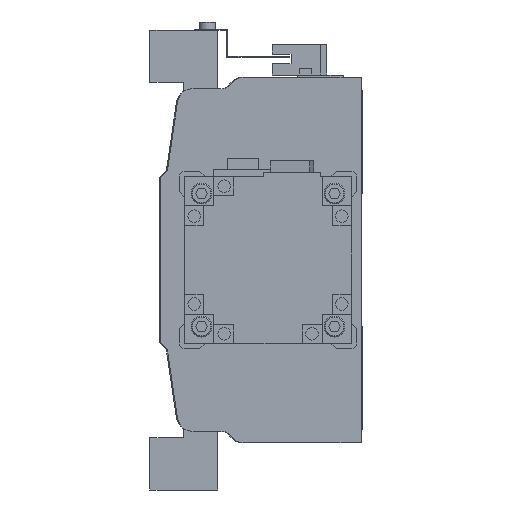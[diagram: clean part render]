
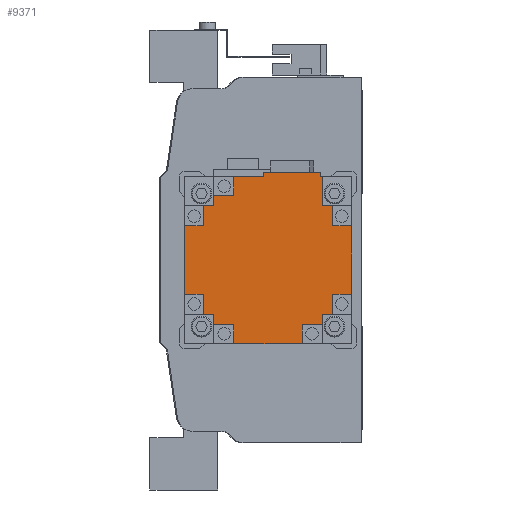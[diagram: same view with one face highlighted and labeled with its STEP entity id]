
A CAD part, left-side view. The second image highlights one B-rep face of the part: STEP entity #9371.
In plain terms, the highlighted planar face has unit normal (-1, 0, 0) as drawn and (0, 1, 0) by its records, which use the part's own axes.
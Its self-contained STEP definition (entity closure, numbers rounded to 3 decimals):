
#150=PLANE('',#10044);
#656=LINE('',#13878,#1707);
#665=LINE('',#13898,#1716);
#671=LINE('',#13910,#1722);
#674=LINE('',#13916,#1725);
#675=LINE('',#13919,#1726);
#676=LINE('',#13921,#1727);
#677=LINE('',#13923,#1728);
#678=LINE('',#13925,#1729);
#679=LINE('',#13927,#1730);
#680=LINE('',#13929,#1731);
#681=LINE('',#13931,#1732);
#682=LINE('',#13933,#1733);
#683=LINE('',#13935,#1734);
#684=LINE('',#13937,#1735);
#685=LINE('',#13939,#1736);
#686=LINE('',#13941,#1737);
#687=LINE('',#13943,#1738);
#688=LINE('',#13945,#1739);
#689=LINE('',#13947,#1740);
#690=LINE('',#13949,#1741);
#691=LINE('',#13951,#1742);
#692=LINE('',#13953,#1743);
#693=LINE('',#13955,#1744);
#694=LINE('',#13957,#1745);
#695=LINE('',#13958,#1746);
#696=LINE('',#13959,#1747);
#697=LINE('',#13960,#1748);
#698=LINE('',#13962,#1749);
#699=LINE('',#13964,#1750);
#700=LINE('',#13966,#1751);
#1707=VECTOR('',#11173,1000.);
#1716=VECTOR('',#11184,1000.);
#1722=VECTOR('',#11190,1000.);
#1725=VECTOR('',#11195,1000.);
#1726=VECTOR('',#11196,1000.);
#1727=VECTOR('',#11197,1000.);
#1728=VECTOR('',#11198,1000.);
#1729=VECTOR('',#11199,1000.);
#1730=VECTOR('',#11200,1000.);
#1731=VECTOR('',#11201,1000.);
#1732=VECTOR('',#11202,1000.);
#1733=VECTOR('',#11203,1000.);
#1734=VECTOR('',#11204,1000.);
#1735=VECTOR('',#11205,1000.);
#1736=VECTOR('',#11206,1000.);
#1737=VECTOR('',#11207,1000.);
#1738=VECTOR('',#11208,1000.);
#1739=VECTOR('',#11209,1000.);
#1740=VECTOR('',#11210,1000.);
#1741=VECTOR('',#11211,1000.);
#1742=VECTOR('',#11212,1000.);
#1743=VECTOR('',#11213,1000.);
#1744=VECTOR('',#11214,1000.);
#1745=VECTOR('',#11215,1000.);
#1746=VECTOR('',#11216,1000.);
#1747=VECTOR('',#11217,1000.);
#1748=VECTOR('',#11218,1000.);
#1749=VECTOR('',#11219,1000.);
#1750=VECTOR('',#11220,1000.);
#1751=VECTOR('',#11221,1000.);
#3045=ORIENTED_EDGE('',*,*,#5488,.T.);
#3046=ORIENTED_EDGE('',*,*,#5489,.T.);
#3047=ORIENTED_EDGE('',*,*,#5490,.T.);
#3048=ORIENTED_EDGE('',*,*,#5491,.T.);
#3049=ORIENTED_EDGE('',*,*,#5492,.T.);
#3050=ORIENTED_EDGE('',*,*,#5493,.F.);
#3051=ORIENTED_EDGE('',*,*,#5494,.F.);
#3052=ORIENTED_EDGE('',*,*,#5495,.T.);
#3053=ORIENTED_EDGE('',*,*,#5496,.T.);
#3054=ORIENTED_EDGE('',*,*,#5497,.T.);
#3055=ORIENTED_EDGE('',*,*,#5498,.T.);
#3056=ORIENTED_EDGE('',*,*,#5499,.T.);
#3057=ORIENTED_EDGE('',*,*,#5500,.F.);
#3058=ORIENTED_EDGE('',*,*,#5501,.F.);
#3059=ORIENTED_EDGE('',*,*,#5502,.T.);
#3060=ORIENTED_EDGE('',*,*,#5503,.T.);
#3061=ORIENTED_EDGE('',*,*,#5504,.T.);
#3062=ORIENTED_EDGE('',*,*,#5505,.T.);
#3063=ORIENTED_EDGE('',*,*,#5506,.T.);
#3064=ORIENTED_EDGE('',*,*,#5507,.F.);
#3065=ORIENTED_EDGE('',*,*,#5508,.F.);
#3066=ORIENTED_EDGE('',*,*,#5479,.T.);
#3067=ORIENTED_EDGE('',*,*,#5509,.F.);
#3068=ORIENTED_EDGE('',*,*,#5470,.F.);
#3069=ORIENTED_EDGE('',*,*,#5510,.T.);
#3070=ORIENTED_EDGE('',*,*,#5485,.T.);
#3071=ORIENTED_EDGE('',*,*,#5511,.T.);
#3072=ORIENTED_EDGE('',*,*,#5512,.T.);
#3073=ORIENTED_EDGE('',*,*,#5513,.F.);
#3074=ORIENTED_EDGE('',*,*,#5514,.F.);
#5470=EDGE_CURVE('',#6732,#6733,#656,.T.);
#5479=EDGE_CURVE('',#6742,#6740,#665,.T.);
#5485=EDGE_CURVE('',#6748,#6747,#671,.T.);
#5488=EDGE_CURVE('',#6750,#6751,#674,.T.);
#5489=EDGE_CURVE('',#6751,#6752,#675,.T.);
#5490=EDGE_CURVE('',#6752,#6753,#676,.T.);
#5491=EDGE_CURVE('',#6753,#6754,#677,.T.);
#5492=EDGE_CURVE('',#6754,#6755,#678,.T.);
#5493=EDGE_CURVE('',#6756,#6755,#679,.T.);
#5494=EDGE_CURVE('',#6757,#6756,#680,.T.);
#5495=EDGE_CURVE('',#6757,#6758,#681,.T.);
#5496=EDGE_CURVE('',#6758,#6759,#682,.T.);
#5497=EDGE_CURVE('',#6759,#6760,#683,.T.);
#5498=EDGE_CURVE('',#6760,#6761,#684,.T.);
#5499=EDGE_CURVE('',#6761,#6762,#685,.T.);
#5500=EDGE_CURVE('',#6763,#6762,#686,.T.);
#5501=EDGE_CURVE('',#6764,#6763,#687,.T.);
#5502=EDGE_CURVE('',#6764,#6765,#688,.T.);
#5503=EDGE_CURVE('',#6765,#6766,#689,.T.);
#5504=EDGE_CURVE('',#6766,#6767,#690,.T.);
#5505=EDGE_CURVE('',#6767,#6768,#691,.T.);
#5506=EDGE_CURVE('',#6768,#6769,#692,.T.);
#5507=EDGE_CURVE('',#6770,#6769,#693,.T.);
#5508=EDGE_CURVE('',#6742,#6770,#694,.T.);
#5509=EDGE_CURVE('',#6733,#6740,#695,.T.);
#5510=EDGE_CURVE('',#6732,#6748,#696,.T.);
#5511=EDGE_CURVE('',#6747,#6771,#697,.T.);
#5512=EDGE_CURVE('',#6771,#6772,#698,.T.);
#5513=EDGE_CURVE('',#6773,#6772,#699,.T.);
#5514=EDGE_CURVE('',#6750,#6773,#700,.T.);
#6732=VERTEX_POINT('',#13879);
#6733=VERTEX_POINT('',#13880);
#6740=VERTEX_POINT('',#13896);
#6742=VERTEX_POINT('',#13899);
#6747=VERTEX_POINT('',#13909);
#6748=VERTEX_POINT('',#13911);
#6750=VERTEX_POINT('',#13917);
#6751=VERTEX_POINT('',#13918);
#6752=VERTEX_POINT('',#13920);
#6753=VERTEX_POINT('',#13922);
#6754=VERTEX_POINT('',#13924);
#6755=VERTEX_POINT('',#13926);
#6756=VERTEX_POINT('',#13928);
#6757=VERTEX_POINT('',#13930);
#6758=VERTEX_POINT('',#13932);
#6759=VERTEX_POINT('',#13934);
#6760=VERTEX_POINT('',#13936);
#6761=VERTEX_POINT('',#13938);
#6762=VERTEX_POINT('',#13940);
#6763=VERTEX_POINT('',#13942);
#6764=VERTEX_POINT('',#13944);
#6765=VERTEX_POINT('',#13946);
#6766=VERTEX_POINT('',#13948);
#6767=VERTEX_POINT('',#13950);
#6768=VERTEX_POINT('',#13952);
#6769=VERTEX_POINT('',#13954);
#6770=VERTEX_POINT('',#13956);
#6771=VERTEX_POINT('',#13961);
#6772=VERTEX_POINT('',#13963);
#6773=VERTEX_POINT('',#13965);
#7869=EDGE_LOOP('',(#3045,#3046,#3047,#3048,#3049,#3050,#3051,#3052,#3053,
#3054,#3055,#3056,#3057,#3058,#3059,#3060,#3061,#3062,#3063,#3064,#3065,
#3066,#3067,#3068,#3069,#3070,#3071,#3072,#3073,#3074));
#8570=FACE_BOUND('',#7869,.T.);
#9371=ADVANCED_FACE('',(#8570),#150,.T.);
#10044=AXIS2_PLACEMENT_3D('',#13915,#11193,#11194);
#11173=DIRECTION('',(0.,0.,1.));
#11184=DIRECTION('',(0.,0.,-1.));
#11190=DIRECTION('',(0.,0.,-1.));
#11193=DIRECTION('',(0.,1.,0.));
#11194=DIRECTION('',(0.,0.,1.));
#11195=DIRECTION('',(-1.,0.,0.));
#11196=DIRECTION('',(0.,0.,-1.));
#11197=DIRECTION('',(-1.,0.,0.));
#11198=DIRECTION('',(0.,0.,1.));
#11199=DIRECTION('',(-1.,0.,0.));
#11200=DIRECTION('',(0.,0.,-1.));
#11201=DIRECTION('',(1.,0.,0.));
#11202=DIRECTION('',(0.,0.,1.));
#11203=DIRECTION('',(-1.,0.,0.));
#11204=DIRECTION('',(0.,0.,1.));
#11205=DIRECTION('',(1.,0.,0.));
#11206=DIRECTION('',(0.,0.,1.));
#11207=DIRECTION('',(-1.,0.,0.));
#11208=DIRECTION('',(0.,0.,-1.));
#11209=DIRECTION('',(1.,0.,0.));
#11210=DIRECTION('',(0.,0.,1.));
#11211=DIRECTION('',(1.,0.,0.));
#11212=DIRECTION('',(0.,0.,-1.));
#11213=DIRECTION('',(1.,0.,0.));
#11214=DIRECTION('',(0.,0.,1.));
#11215=DIRECTION('',(-1.,0.,0.));
#11216=DIRECTION('',(-1.,0.,0.));
#11217=DIRECTION('',(-1.,0.,0.));
#11218=DIRECTION('',(-1.,0.,0.));
#11219=DIRECTION('',(0.,0.,-1.));
#11220=DIRECTION('',(1.,0.,0.));
#11221=DIRECTION('',(0.,0.,1.));
#13878=CARTESIAN_POINT('',(42.,138.3,-2.2));
#13879=CARTESIAN_POINT('',(42.,138.3,-2.2));
#13880=CARTESIAN_POINT('',(42.,138.3,25.2));
#13896=CARTESIAN_POINT('',(39.95,138.3,25.2));
#13898=CARTESIAN_POINT('',(39.95,138.3,39.95));
#13899=CARTESIAN_POINT('',(39.95,138.3,25.95));
#13909=CARTESIAN_POINT('',(39.95,138.3,-16.35));
#13910=CARTESIAN_POINT('',(39.95,138.3,39.95));
#13911=CARTESIAN_POINT('',(39.95,138.3,-2.2));
#13915=CARTESIAN_POINT('',(0.,138.3,0.));
#13916=CARTESIAN_POINT('',(0.,138.3,-30.95));
#13917=CARTESIAN_POINT('',(25.95,138.3,-30.95));
#13918=CARTESIAN_POINT('',(16.35,138.3,-30.95));
#13919=CARTESIAN_POINT('',(16.35,138.3,0.));
#13920=CARTESIAN_POINT('',(16.35,138.3,-39.95));
#13921=CARTESIAN_POINT('',(39.95,138.3,-39.95));
#13922=CARTESIAN_POINT('',(-16.35,138.3,-39.95));
#13923=CARTESIAN_POINT('',(-16.35,138.3,0.));
#13924=CARTESIAN_POINT('',(-16.35,138.3,-30.95));
#13925=CARTESIAN_POINT('',(0.,138.3,-30.95));
#13926=CARTESIAN_POINT('',(-25.95,138.3,-30.95));
#13927=CARTESIAN_POINT('',(-25.95,138.3,0.));
#13928=CARTESIAN_POINT('',(-25.95,138.3,-25.95));
#13929=CARTESIAN_POINT('',(0.,138.3,-25.95));
#13930=CARTESIAN_POINT('',(-30.95,138.3,-25.95));
#13931=CARTESIAN_POINT('',(-30.95,138.3,0.));
#13932=CARTESIAN_POINT('',(-30.95,138.3,-16.35));
#13933=CARTESIAN_POINT('',(0.,138.3,-16.35));
#13934=CARTESIAN_POINT('',(-39.95,138.3,-16.35));
#13935=CARTESIAN_POINT('',(-39.95,138.3,-39.95));
#13936=CARTESIAN_POINT('',(-39.95,138.3,16.35));
#13937=CARTESIAN_POINT('',(0.,138.3,16.35));
#13938=CARTESIAN_POINT('',(-30.95,138.3,16.35));
#13939=CARTESIAN_POINT('',(-30.95,138.3,0.));
#13940=CARTESIAN_POINT('',(-30.95,138.3,25.95));
#13941=CARTESIAN_POINT('',(0.,138.3,25.95));
#13942=CARTESIAN_POINT('',(-25.95,138.3,25.95));
#13943=CARTESIAN_POINT('',(-25.95,138.3,0.));
#13944=CARTESIAN_POINT('',(-25.95,138.3,30.95));
#13945=CARTESIAN_POINT('',(0.,138.3,30.95));
#13946=CARTESIAN_POINT('',(-16.35,138.3,30.95));
#13947=CARTESIAN_POINT('',(-16.35,138.3,0.));
#13948=CARTESIAN_POINT('',(-16.35,138.3,39.95));
#13949=CARTESIAN_POINT('',(-39.95,138.3,39.95));
#13950=CARTESIAN_POINT('',(16.35,138.3,39.95));
#13951=CARTESIAN_POINT('',(16.35,138.3,0.));
#13952=CARTESIAN_POINT('',(16.35,138.3,30.95));
#13953=CARTESIAN_POINT('',(0.,138.3,30.95));
#13954=CARTESIAN_POINT('',(25.95,138.3,30.95));
#13955=CARTESIAN_POINT('',(25.95,138.3,0.));
#13956=CARTESIAN_POINT('',(25.95,138.3,25.95));
#13957=CARTESIAN_POINT('',(0.,138.3,25.95));
#13958=CARTESIAN_POINT('',(42.,138.3,25.2));
#13959=CARTESIAN_POINT('',(42.,138.3,-2.2));
#13960=CARTESIAN_POINT('',(0.,138.3,-16.35));
#13961=CARTESIAN_POINT('',(30.95,138.3,-16.35));
#13962=CARTESIAN_POINT('',(30.95,138.3,0.));
#13963=CARTESIAN_POINT('',(30.95,138.3,-25.95));
#13964=CARTESIAN_POINT('',(0.,138.3,-25.95));
#13965=CARTESIAN_POINT('',(25.95,138.3,-25.95));
#13966=CARTESIAN_POINT('',(25.95,138.3,0.));
